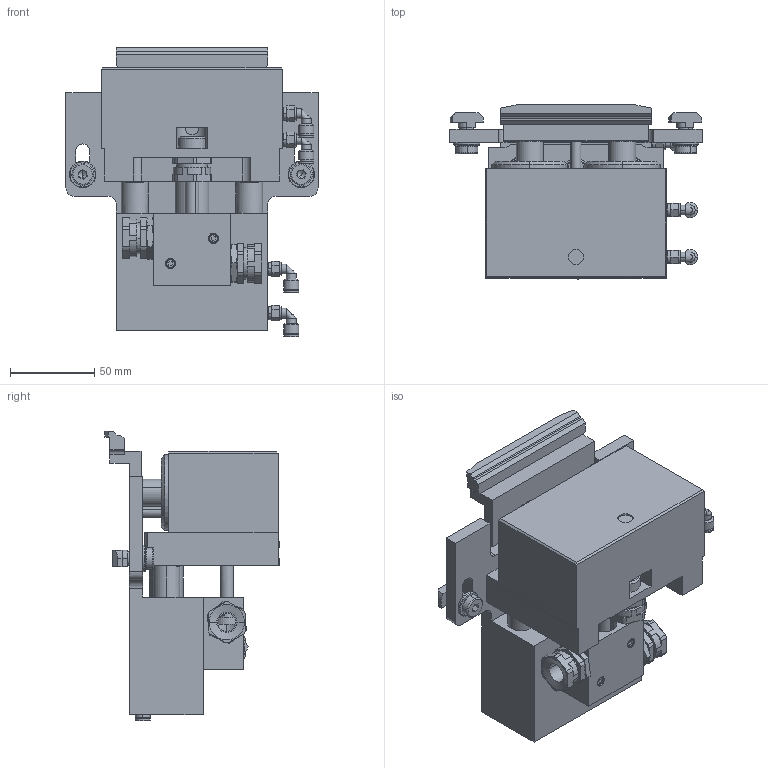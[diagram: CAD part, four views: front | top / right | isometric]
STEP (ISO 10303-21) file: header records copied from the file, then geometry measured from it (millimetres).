
FILE_DESCRIPTION (( 'STEP AP203' ), '1' );
FILE_NAME ('DDS-160-17-DW_oben_ausgefahren.STEP', '2021-01-12T10:51:36', ( '' ), ( '' ), 'SwSTEP 2.0', 'SolidWorks 2019', '' );
FILE_SCHEMA (( 'CONFIG_CONTROL_DESIGN' ));
Length unit declared in the file: millimetre
Products named in the file (1): DDS-160-17-DW_oben_ausgefahren
Bounding box: 150 x 103.63 x 172.1 mm (x, y, z)
Volume: 933401.3 mm3; surface area: 152186.2 mm2
Topology: 16 solids, 27 shells, 1043 faces, 2449 edges, 1549 vertices
Faces by surface type: plane 483, cylinder 418, cone 114, torus 28
Entity records: 30102 total; most frequent: DIRECTION 5491, CARTESIAN_POINT 5317, ORIENTED_EDGE 4850, EDGE_CURVE 2425, AXIS2_PLACEMENT_3D 2069, VERTEX_POINT 1549, LINE 1353, VECTOR 1353
